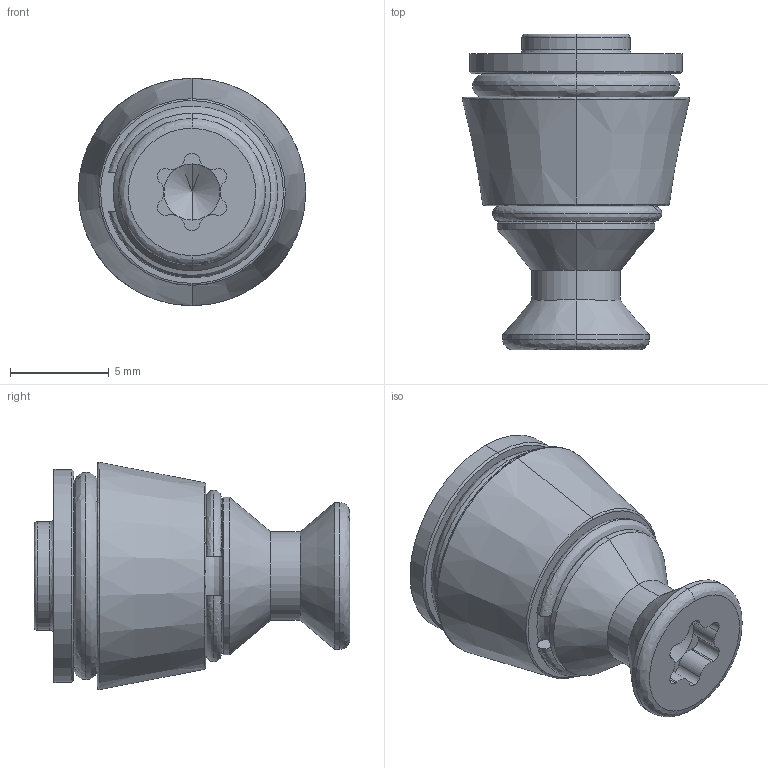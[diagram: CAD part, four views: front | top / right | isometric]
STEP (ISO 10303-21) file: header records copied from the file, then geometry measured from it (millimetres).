
FILE_DESCRIPTION (( 'STEP AP203' ), '1' );
FILE_NAME ('QS022-IC-M5.STEP', '2017-06-07T07:07:45', ( '' ), ( '' ), 'SwSTEP 2.0', 'SolidWorks 2017', '' );
FILE_SCHEMA (( 'CONFIG_CONTROL_DESIGN' ));
Length unit declared in the file: millimetre
Products named in the file (1): QS022-IC-M5
Bounding box: 11.53 x 16 x 11.53 mm (x, y, z)
Volume: 759.6 mm3; surface area: 1282.3 mm2
Topology: 4 solids, 4 shells, 83 faces, 183 edges, 106 vertices
Faces by surface type: cylinder 33, bspline 22, cone 14, plane 14
Entity records: 2752 total; most frequent: CARTESIAN_POINT 903, DIRECTION 403, ORIENTED_EDGE 358, EDGE_CURVE 179, AXIS2_PLACEMENT_3D 178, CIRCLE 116, VERTEX_POINT 106, EDGE_LOOP 89
